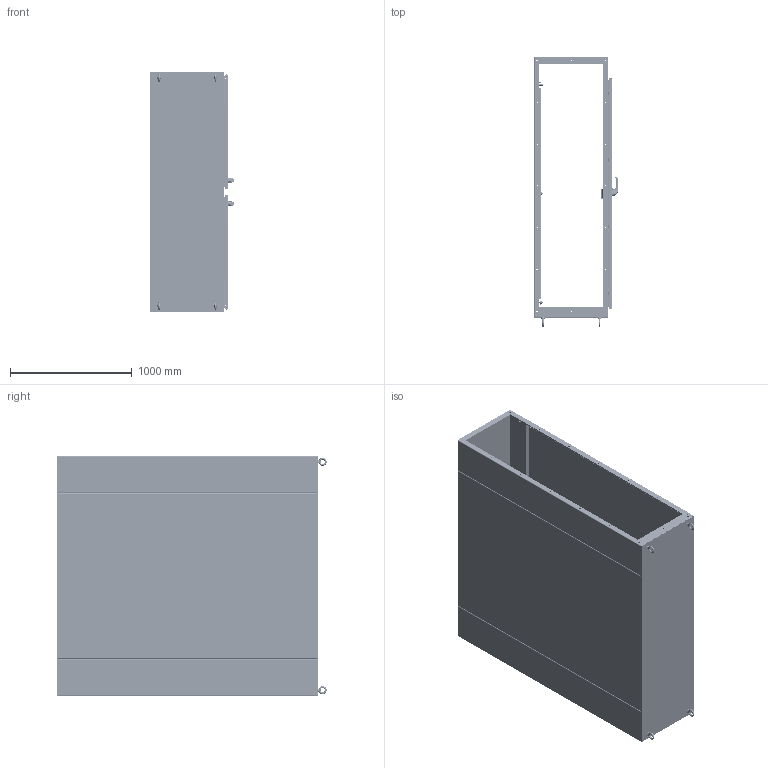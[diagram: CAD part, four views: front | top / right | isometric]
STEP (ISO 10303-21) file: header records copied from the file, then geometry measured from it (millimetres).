
FILE_DESCRIPTION((''),'2;1');
FILE_NAME('MODEL-603_ASM','2026-02-04T09:39:34',('joshi'),('SAGINAW CONTROL & ENGINEERING'),'CREO PARAMETRIC BY PTC INC, 2021284','CREO PARAMETRIC BY PTC INC, 2021284','');
FILE_SCHEMA(('AUTOMOTIVE_DESIGN { 1 0 10303 214 1 1 1 1 }'));
Length unit declared in the file: inch
Products named in the file (114): MODEL-603-MID-R-SD; MODEL-603-MID-TP; MODEL-603-MID-L-SD; MODEL-603-MID-BTM; MODEL-603-MID-BCK; MODEL-603-RH-DR; 100837; 100957_SCREW_MTG; 100957_PADLOCK_CATCH; 100957_SCREW_LARGE; 100957_INSERT_SHAFT; 100957_INSERT_PH; 100957_GASKET; 100957_O-RING; 100957_BASE; 100957_SPRING; 100957_HANDLE; 100957_CAM_SHAFT; 100957_HANDLE_ASM; 100957_CAM_ADAPTER; 100957_EARTH_NUT; 100957_FLANGE_NUT; 100957_CAM_NUT; 100957_ASM; 102236; 100030; 102236_ASM; MODEL-603-ROD-UPR-RHD; 128146; 128145; 128144; 102482; MODEL-603-ROD-UPR-RHD_ASM; 128143; 100882; 112504; MODEL-603-ROD-LWR-RHD; MODEL-603-ROD-LWR-RHD_ASM; MODEL-603-PR-GSKT-RHD; 128257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
Assembly tree (263 placements, depth 5):
  MODEL-603_ASM
    MODEL-603-MID-R-SD
    MODEL-603-MID-TP
    MODEL-603-MID-L-SD
    MODEL-603-MID-BTM
    MODEL-603-MID-BCK
    MODEL-603-RH-DOOR-ASSY_ASM
      MODEL-603-RH-DR
      100837  x3
      100957_ASM
        100957_SCREW_MTG
        100957_PADLOCK_CATCH
        100957_SCREW_LARGE  x2
        100957_INSERT_SHAFT
        100957_INSERT_PH
        100957_GASKET
        100957_O-RING
        100957_BASE
        100957_SPRING
        100957_HANDLE_ASM
          100957_HANDLE
          100957_CAM_SHAFT
        100957_CAM_ADAPTER
        100957_EARTH_NUT
        100957_FLANGE_NUT
        100957_CAM_NUT
      102236_ASM
        102236
        100030  x2
      MODEL-603-ROD-UPR-RHD_ASM
        MODEL-603-ROD-UPR-RHD
        128146
        128145
        128144
        102482  x2
      128143  x2
      100882  x10
      112504  x2
      MODEL-603-ROD-LWR-RHD_ASM
        MODEL-603-ROD-LWR-RHD
        128146
        128145
        128144
        102482  x2
      MODEL-603-PR-GSKT-RHD
      128257_ASM  x4
        128257
      126393  x4
      102483  x4
      101369_ASM  x4
        101369
        101369-STUD
      101221  x4
    MODEL-603-LH-DOOR-ASSY_ASM
      MODEL-603-LH-DR
      100837  x3
      100957_ASM
        100957_SCREW_MTG
        100957_PADLOCK_CATCH
        100957_SCREW_LARGE  x2
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Bounding box: 687.67 x 2208.4 x 1974.85 mm (x, y, z)
Volume: 52164754.9 mm3; surface area: 34099436 mm2
Topology: 307 solids, 307 shells, 24873 faces, 63363 edges, 39073 vertices
Faces by surface type: plane 8827, cylinder 6702, bspline 5570, torus 1734, cone 1328, sphere 652, extrusion 60
Entity records: 447991 total; most frequent: CARTESIAN_POINT 178935, ORIENTED_EDGE 40762, DIRECTION 37862, PRESENTATION_STYLE_ASSIGNMENT 20462, STYLED_ITEM 20457, EDGE_CURVE 20381, CURVE_STYLE 20333, AXIS2_PLACEMENT_3D 13965
